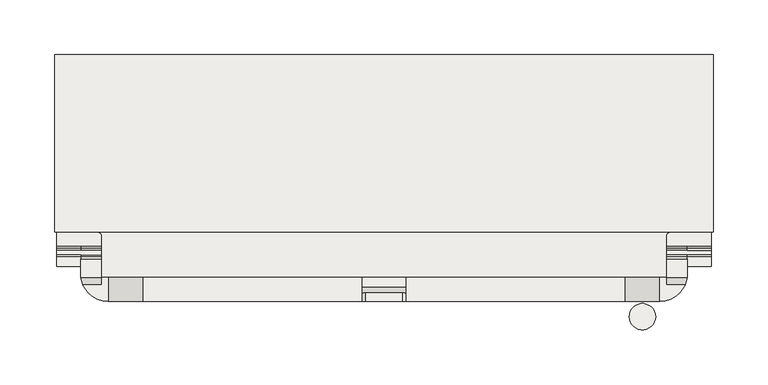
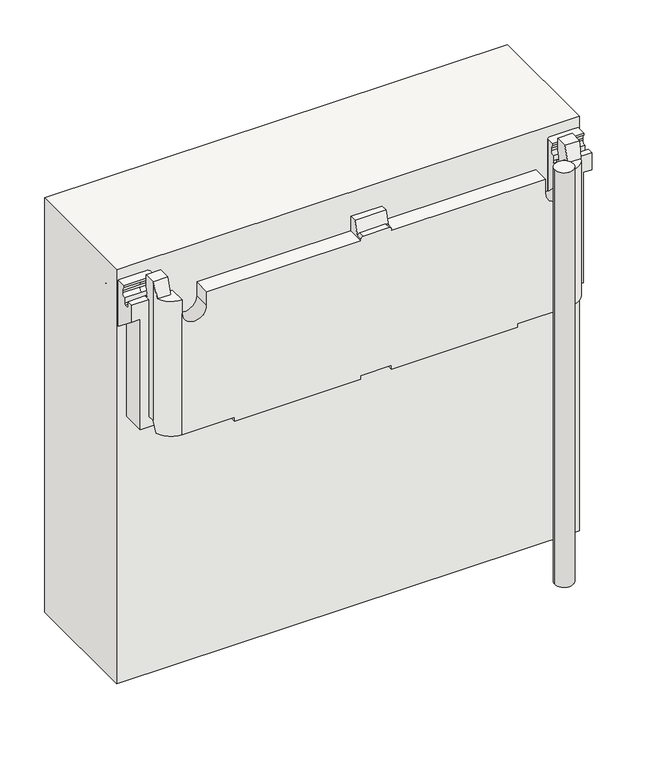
"""IFC4 building model written with IfcOpenShell, lengths in millimetres: covering geometry, panel VP Modulo prova ultima texture : panel VP Modulo prova ultima texture."""

from ifc_helpers import new_model, si_unit, point, frame, frame_2d, origin, origin_with_axes, place, context, project, spatial, polyline, circle_curve, ellipse_curve, trimmed, segment, composite_curve, outline, extrude, source, transform, mapped, element, save
from ifc_brep_helpers import plane_surface, cylinder_surface, revolved_surface, advanced_brep


def covering_409b982e(model_context):
    return source(origin(), model_context, "Body", "SolidModel", [
        advanced_brep(
        [(-20.0, 40.503817, 567.5220564), (-20.0, 49.5015434, 567.5220564), (-20.0, 49.5015434, 547.5249996), (-20.0, 27.5015432, 547.5249996), (-20.0, 27.5015432, 549.5249996), (-20.0, 34.5021229, 549.5249996), (20.0, 49.5015434, 567.5220564), (20.0, 40.503817, 567.5220564), (20.0, 34.5021229, 549.5249996), (20.0, 27.5015432, 549.5249996), (20.0, 27.5015432, 547.5249996), (20.0, 49.5015434, 547.5249996), (-17.0, 35.5025688, 552.5249996), (17.0, 35.5025688, 552.5249996), (17.0, 27.5015432, 552.5249996), (-17.0, 27.5015432, 552.5249996), (-276.2404059, 49.5015434, 567.5198754), (-276.2404059, 65.772467, 567.5198754), (-276.2404059, 65.772467, 549.5768312), (-276.2404059, 63.7739273, 544.6813202), (-276.2404059, 63.7739273, 541.6813202), (-276.2404059, 67.7745502, 536.9851203), (-276.2404059, 59.5, 536.9851203), (-276.2404059, 59.5, 377.5207128), (-276.2404059, 49.5015434, 377.5207128), (276.2404059, 67.7745502, 536.9851203), (276.2404059, 63.7739273, 541.6813202), (276.2404059, 63.7739273, 544.6813202), (276.2404059, 65.772467, 549.5768312), (276.2404059, 65.772467, 567.5198754), (276.2404059, 49.5015434, 567.5198754), (276.2404059, 49.5015434, 377.5207128), (276.2404059, 59.5, 377.5207128), (276.2404059, 59.5, 536.9851203), (219.5404059, 27.5015432, 547.5249996), (219.5404059, 49.5015434, 547.5249996), (257.5404059, 42.6167555, 547.5249996), (257.5404059, 49.5015434, 547.5249996), (251.5404059, 49.5015434, 547.5249996), (251.5404059, 27.5015432, 547.5249996), (274.4146377, 42.6167555, 547.5249996), (-251.5404059, 27.5015432, 547.5249996), (-251.5404059, 49.5015434, 547.5249996), (-257.5404059, 49.5015434, 547.5249996), (-257.5404059, 42.6167555, 547.5249996), (-274.4146377, 42.6167555, 547.5249996), (-219.5404059, 49.5015434, 547.5249996), (-219.5404059, 27.5015432, 547.5249996), (-276.2404059, 109.8415131, 384.5213892), (276.2404059, 109.8415131, 384.5213892), (276.2404059, 141.2113001, 412.1618818), (-276.2404059, 141.2113001, 412.1618818), (-276.2404059, 147.3447094, 418.6241094), (276.2404059, 147.3447094, 418.6241094), (276.2404059, 184.4941844, 465.5067645), (-276.2404059, 184.4941844, 465.5067645), (276.2404059, 184.4941844, 492.5056194), (-276.2404059, 184.4941844, 492.5056194), (298.2404059, 184.4914281, 492.5056194), (298.2404059, 202.488872, 492.5056194), (-298.2404059, 202.488872, 492.5056194), (-298.2404059, 184.4914281, 492.5056194), (-298.2404059, 202.488872, 452.7923442), (298.2404059, 202.488872, 452.7923442), (276.2404059, 193.4423608, 411.4138134), (-276.2404059, 193.4423608, 411.4138134), (-298.2404059, 193.4423608, 411.4138134), (298.2404059, 193.4423608, 411.4138134), (276.2404059, 190.281945, 410.2861233), (-276.2404059, 190.281945, 410.2861233), (298.2404059, 190.281945, 410.2861233), (298.2404059, 59.5, 513.9167777), (287.2404059, 59.5, 513.9167777), (287.2404059, 180.2456216, 418.2388324), (276.2404059, 180.2456216, 418.2388324), (-276.2404059, 180.2456216, 418.2388324), (-287.2404059, 180.2456216, 418.2388324), (-287.2404059, 59.5, 513.9167777), (-298.2404059, 59.5, 513.9167777), (-298.2404059, 190.281945, 410.2861233), (276.2404059, 174.5899002, 417.5837505), (-276.2404059, 174.5899002, 417.5837505), (287.2404059, 174.5899002, 417.5837505), (287.2404059, 160.5878776, 399.9132262), (-287.2404059, 160.5878776, 399.9132262), (-287.2404059, 174.5899002, 417.5837505), (-287.2404059, 118.1414154, 362.5128727), (287.2404059, 118.1414154, 362.5128727), (251.5404059, 118.1414154, 362.5128727), (211.5404059, 118.1414154, 362.5128727), (20.0, 118.1414154, 362.5128727), (-20.0, 118.1414154, 362.5128727), (-211.5404059, 118.1414154, 362.5128727), (-251.5404059, 118.1414154, 362.5128727), (-287.2404059, 59.5, 362.5250013), (-251.5404059, 78.1414154, 362.5250013), (-211.5404059, 78.1414154, 362.5250013), (-20.0, 78.1414154, 362.5250013), (20.0, 78.1414154, 362.5250013), (211.5404059, 78.1414154, 362.5250013), (251.5404059, 78.1414154, 362.5250013), (287.2404059, 59.5, 362.5250013), (266.2404059, 59.5, 362.5250013), (266.2404059, 44.6291413, 362.5250013), (275.1714066, 44.6291413, 362.5250013), (251.5404059, 27.5015432, 362.5250013), (183.2404059, 27.5015432, 362.5250013), (183.2404059, 67.5015432, 362.5250013), (20.0, 67.5015432, 362.5250013), (20.0, 27.5015432, 362.5250013), (-20.0, 27.5015432, 362.5250013), (-20.0, 67.5015432, 362.5250013), (-183.2404059, 67.5015432, 362.5250013), (-183.2404059, 27.5015432, 362.5250013), (-251.5404059, 27.5015432, 362.5250013), (-275.1714066, 44.6291413, 362.5250013), (-266.2404059, 44.6291413, 362.5250013), (-266.2404059, 59.5, 362.5250013), (-219.5404059, 27.5015432, 528.501469), (-251.5404059, 27.5015432, 528.501469), (-183.2404059, 27.5015432, 357.5154158), (-20.0, 27.5015432, 357.5154158), (20.0, 27.5015432, 357.5154158), (183.2404059, 27.5015432, 357.5154158), (251.5404059, 27.5015432, 528.501469), (219.5404059, 27.5015432, 528.501469), (-251.5404059, 49.5015434, 528.501469), (-219.5404059, 49.5015434, 528.501469), (219.5404059, 49.5015434, 528.501469), (251.5404059, 49.5015434, 528.501469), (257.5404059, 49.5015434, 384.5213892), (-257.5404059, 49.5015434, 384.5213892), (-276.2404059, 101.3665857, 384.5213892), (-265.6338042, 90.7599839, 384.5213892), (-261.9338042, 90.7599839, 384.5213892), (-257.5404059, 86.3665857, 384.5213892), (257.5404059, 86.3665857, 384.5213892), (261.9338042, 90.7599839, 384.5213892), (265.6338042, 90.7599839, 384.5213892), (276.2404059, 101.3665857, 384.5213892), (-298.2404059, 59.5, 536.9851203), (-298.2404059, 67.7745502, 536.9851203), (-298.2404059, 67.7745502, 529.9852856), (-298.2404059, 69.7745502, 527.9852856), (-298.2404059, 74.0001297, 527.9852856), (-298.2404059, 76.0001297, 529.9852856), (-298.2404059, 76.0001297, 536.9851203), (-298.2404059, 80.0007527, 541.6813202), (-298.2404059, 80.0007527, 544.6813202), (-298.2404059, 78.002213, 549.5768312), (-298.2404059, 78.002213, 552.5285461), (-298.2404059, 115.166168, 552.5285461), (-298.2404059, 118.166168, 549.5285461), (-298.2404059, 118.166168, 533.2479937), (-298.2404059, 119.6447617, 530.6623946), (-276.2404059, 119.6447617, 530.6623946), (-276.2404059, 118.166168, 533.2479937), (-276.2404059, 118.166168, 549.5285461), (-276.2404059, 115.166168, 552.5285461), (-276.2404059, 101.3665857, 552.5285461), (-266.2404059, 59.5, 377.5207128), (-257.5404059, 67.7745502, 536.9851203), (-257.5404059, 67.7745502, 529.9852856), (-276.2404059, 67.7745502, 529.9852856), (-276.2404059, 69.7745502, 527.9852856), (-257.5404059, 69.7745502, 527.9852856), (-257.5404059, 74.0001297, 527.9852856), (-276.2404059, 74.0001297, 527.9852856), (-276.2404059, 76.0001297, 529.9852856), (-257.5404059, 76.0001297, 529.9852856), (-257.5404059, 76.0001297, 536.9851203), (-276.2404059, 76.0001297, 536.9851203), (-276.2404059, 80.0007527, 541.6813202), (-257.5404059, 80.0007527, 541.6813202), (-257.5404059, 80.0007527, 544.6813202), (-276.2404059, 80.0007527, 544.6813202), (-276.2404059, 78.002213, 549.5768312), (-257.5404059, 78.002213, 549.5768312), (-257.5404059, 78.002213, 552.5285461), (-257.5404059, 86.3665857, 552.5285461), (-261.9338042, 90.7599839, 552.5285461), (-265.6338042, 90.7599839, 552.5285461), (-257.5404059, 63.7739273, 541.6813202), (-257.5404059, 63.7739273, 544.6813202), (-257.5404059, 65.772467, 549.5768312), (-257.5404059, 65.772467, 567.5198754), (-257.5404059, 49.5015434, 567.5198754), (298.2404059, 119.6447617, 530.6623946), (298.2404059, 118.166168, 533.2479937), (298.2404059, 118.166168, 549.5285461), (298.2404059, 115.166168, 552.5285461), (298.2404059, 78.002213, 552.5285461), (298.2404059, 78.002213, 549.5768312), (298.2404059, 80.0007527, 544.6813202), (298.2404059, 80.0007527, 541.6813202), (298.2404059, 76.0001297, 536.9851203), (298.2404059, 76.0001297, 529.9852856), (298.2404059, 74.0001297, 527.9852856), (298.2404059, 69.7745502, 527.9852856), (298.2404059, 67.7745502, 529.9852856), (298.2404059, 67.7745502, 536.9851203), (298.2404059, 59.5, 536.9851203), (276.2404059, 115.166168, 552.5285461), (276.2404059, 118.166168, 549.5285461), (276.2404059, 118.166168, 533.2479937), (276.2404059, 119.6447617, 530.6623946), (276.2404059, 101.3665857, 552.5285461), (266.2404059, 59.5, 377.5207128), (276.2404059, 69.7745502, 527.9852856), (276.2404059, 67.7745502, 529.9852856), (276.2404059, 76.0001297, 529.9852856), (276.2404059, 74.0001297, 527.9852856), (276.2404059, 80.0007527, 541.6813202), (276.2404059, 76.0001297, 536.9851203), (276.2404059, 78.002213, 549.5768312), (276.2404059, 80.0007527, 544.6813202), (257.5404059, 49.5015434, 567.5198754), (257.5404059, 65.772467, 567.5198754), (257.5404059, 65.772467, 549.5768312), (257.5404059, 63.7739273, 544.6813202), (257.5404059, 63.7739273, 541.6813202), (257.5404059, 67.7745502, 536.9851203), (257.5404059, 67.7745502, 529.9852856), (257.5404059, 69.7745502, 527.9852856), (257.5404059, 74.0001297, 527.9852856), (257.5404059, 76.0001297, 529.9852856), (257.5404059, 76.0001297, 536.9851203), (257.5404059, 80.0007527, 541.6813202), (257.5404059, 80.0007527, 544.6813202), (257.5404059, 78.002213, 549.5768312), (257.5404059, 78.002213, 552.5285461), (257.5404059, 86.3665857, 552.5285461), (265.6338042, 90.7599839, 552.5285461), (261.9338042, 90.7599839, 552.5285461), (251.5404059, 78.1414154, 357.5154158), (211.5404059, 78.1414154, 357.5154158), (211.5404059, 118.1414154, 357.5154158), (251.5404059, 118.1414154, 357.5154158), (-20.0, 78.1414154, 357.5154158), (-20.0, 118.1414154, 357.5154158), (20.0, 118.1414154, 357.5154158), (20.0, 78.1414154, 357.5154158), (-251.5404059, 78.1414154, 357.5154158), (-251.5404059, 118.1414154, 357.5154158), (-211.5404059, 118.1414154, 357.5154158), (-211.5404059, 78.1414154, 357.5154158), (20.0, 67.5015432, 357.5154158), (183.2404059, 67.5015432, 357.5154158), (-20.0, 67.5015432, 357.5154158), (-183.2404059, 67.5015432, 357.5154158), (-266.2404059, 49.5015434, 377.5207128), (266.2404059, 49.5015434, 377.5207128)],
        [
            (0, 1),
            (1, 2),
            (2, 3),
            (3, 4),
            (4, 5),
            (5, 0),
            (6, 7),
            (7, 8),
            (8, 9),
            (9, 10),
            (10, 11),
            (11, 6),
            (0, 7),
            (6, 1),
            (5, 12, ellipse_curve(frame((-17.0, 34.5021229, 549.5249996), z_axis=(0.0, 0.9486409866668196, -0.31635467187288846), x_axis=(0.0, 0.31635467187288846, 0.9486409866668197)), 3.1624187, 3.0)),
            (12, 13),
            (13, 8, ellipse_curve(frame((17.0, 34.5021229, 549.5249996), z_axis=(0.0, 0.9486409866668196, -0.31635467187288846), x_axis=(0.0, 0.31635467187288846, 0.9486409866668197)), 3.1624187, 3.0)),
            (14, 9, circle_curve(frame((17.0, 27.5015432, 549.5249996), z_axis=(0.0, 1.0, 0.0), x_axis=(-1.0, 0.0, 0.0)), 3.0)),
            (13, 14),
            (4, 15, circle_curve(frame((-17.0, 27.5015432, 549.5249996), z_axis=(0.0, 1.0, 0.0), x_axis=(-1.0, 0.0, 0.0)), 3.0)),
            (15, 12),
            (15, 14),
            (16, 17),
            (17, 18),
            (18, 19, circle_curve(frame((-276.2404059, 70.7690822, 544.6813202), z_axis=(1.0, 0.0, 0.0), x_axis=(0.0, -1.0, 0.0)), 6.9951549)),
            (19, 20),
            (20, 21, circle_curve(frame((-276.2404059, 68.5305961, 541.6813202), z_axis=(1.0, 0.0, 0.0), x_axis=(0.0, -1.0, 0.0)), 4.7566689)),
            (21, 22),
            (22, 23),
            (23, 24),
            (24, 16),
            (25, 26, circle_curve(frame((276.2404059, 68.5305961, 541.6813202), z_axis=(-1.0, 0.0, 0.0), x_axis=(0.0, -1.0, 0.0)), 4.7566689)),
            (26, 27),
            (27, 28, circle_curve(frame((276.2404059, 70.7690822, 544.6813202), z_axis=(-1.0, 0.0, 0.0), x_axis=(0.0, -1.0, 0.0)), 6.9951549)),
            (28, 29),
            (29, 30),
            (30, 31),
            (31, 32),
            (32, 33),
            (33, 25),
            (10, 34),
            (34, 35),
            (35, 11),
            (36, 37),
            (37, 38),
            (38, 39),
            (39, 40, circle_curve(frame((251.5404059, 52.367225, 547.5249996), z_axis=(0.0, 0.0, 1.0), x_axis=(1.0, 0.0, 0.0)), 24.8656818)),
            (40, 36),
            (41, 42),
            (42, 43),
            (43, 44),
            (44, 45),
            (45, 41, circle_curve(frame((-251.5404059, 52.367225, 547.5249996), z_axis=(0.0, 0.0, 1.0), x_axis=(-1.0, 0.0, 0.0)), 24.8656818)),
            (46, 47),
            (47, 3),
            (2, 46),
            (48, 49),
            (49, 50),
            (50, 51),
            (51, 48),
            (52, 53),
            (53, 54),
            (54, 55),
            (55, 52),
            (54, 56),
            (56, 57),
            (57, 55),
            (56, 58),
            (58, 59),
            (59, 60),
            (60, 61),
            (61, 57),
            (62, 60),
            (59, 63),
            (63, 62),
            (64, 65),
            (65, 66),
            (66, 62),
            (63, 67),
            (67, 64),
            (64, 68, circle_curve(frame((276.2404059, 191.5102381, 411.8362298), z_axis=(-1.0, 0.0, 0.0), x_axis=(0.0, -1.0, 0.0)), 1.9777598)),
            (68, 69),
            (69, 65, circle_curve(frame((-276.2404059, 191.5102381, 411.8362298), z_axis=(1.0, 0.0, 0.0), x_axis=(0.0, -1.0, 0.0)), 1.9777598)),
            (68, 70),
            (70, 71),
            (71, 72),
            (72, 73),
            (73, 74),
            (74, 75),
            (75, 76),
            (76, 77),
            (77, 78),
            (78, 79),
            (79, 69),
            (74, 80, circle_curve(frame((276.2404059, 177.7453022, 415.0834279), z_axis=(1.0, 0.0, 0.0), x_axis=(0.0, -1.0, 0.0)), 4.0259377)),
            (80, 81),
            (81, 75, circle_curve(frame((-276.2404059, 177.7453022, 415.0834279), z_axis=(-1.0, 0.0, 0.0), x_axis=(0.0, -1.0, 0.0)), 4.0259377)),
            (80, 82),
            (82, 83),
            (83, 84),
            (84, 85),
            (85, 81),
            (86, 84),
            (83, 87),
            (87, 88),
            (88, 89),
            (89, 90),
            (90, 91),
            (91, 92),
            (92, 93),
            (93, 86),
            (50, 53, circle_curve(frame((276.2404059, 108.1562691, 449.6767445), z_axis=(1.0, 0.0, 0.0), x_axis=(0.0, -1.0, 0.0)), 50.0)),
            (52, 51, circle_curve(frame((-276.2404059, 108.1562691, 449.6767445), z_axis=(-1.0, 0.0, 0.0), x_axis=(0.0, -1.0, 0.0)), 50.0)),
            (94, 86),
            (93, 95),
            (95, 96),
            (96, 92),
            (91, 97),
            (97, 98),
            (98, 90),
            (89, 99),
            (99, 100),
            (100, 88),
            (87, 101),
            (101, 102),
            (102, 103),
            (103, 104),
            (104, 105, circle_curve(frame((251.5404059, 52.367225, 362.5250013), z_axis=(0.0, 0.0, -1.0), x_axis=(1.0, 0.0, 0.0)), 24.8656818)),
            (105, 106),
            (106, 107),
            (107, 108),
            (108, 109),
            (109, 110),
            (110, 111),
            (111, 112),
            (112, 113),
            (113, 114),
            (114, 115, circle_curve(frame((-251.5404059, 52.367225, 362.5250013), z_axis=(0.0, 0.0, -1.0), x_axis=(-1.0, 0.0, 0.0)), 24.8656818)),
            (115, 116),
            (116, 117),
            (117, 94),
            (47, 118),
            (118, 119, circle_curve(frame((-235.5404059, 27.5015432, 528.501469), z_axis=(0.0, 1.0, 0.0), x_axis=(-1.0, 0.0, 0.0)), 16.0)),
            (119, 114),
            (113, 120),
            (120, 121),
            (121, 110),
            (109, 122),
            (122, 123),
            (123, 106),
            (105, 124),
            (124, 125, circle_curve(frame((235.5404059, 27.5015432, 528.501469), z_axis=(0.0, 1.0, 0.0), x_axis=(1.0, 0.0, 0.0)), 16.0)),
            (125, 34),
            (42, 126),
            (126, 127, circle_curve(frame((-235.5404059, 49.5015434, 528.501469), z_axis=(0.0, -1.0, 0.0), x_axis=(-1.0, 0.0, 0.0)), 16.0)),
            (127, 46),
            (35, 128),
            (128, 129, circle_curve(frame((235.5404059, 49.5015434, 528.501469), z_axis=(0.0, -1.0, 0.0), x_axis=(1.0, 0.0, 0.0)), 16.0)),
            (129, 38),
            (37, 130),
            (130, 131),
            (131, 43),
            (48, 132),
            (132, 133, circle_curve(frame((-265.6338042, 101.3665857, 384.5213892), z_axis=(0.0, 0.0, 1.0), x_axis=(-1.0, 0.0, 0.0)), 10.6066017)),
            (133, 134),
            (134, 135, circle_curve(frame((-261.9338042, 86.3665857, 384.5213892), z_axis=(0.0, 0.0, -1.0), x_axis=(-1.0, 0.0, 0.0)), 4.3933983)),
            (135, 131),
            (130, 136),
            (136, 137, circle_curve(frame((261.9338042, 86.3665857, 384.5213892), z_axis=(0.0, 0.0, -1.0), x_axis=(1.0, 0.0, 0.0)), 4.3933983)),
            (137, 138),
            (138, 139, circle_curve(frame((265.6338042, 101.3665857, 384.5213892), z_axis=(0.0, 0.0, 1.0), x_axis=(1.0, 0.0, 0.0)), 10.6066017)),
            (139, 49),
            (66, 79, circle_curve(frame((-298.2404059, 191.5102381, 411.8362298), z_axis=(-1.0, 0.0, 0.0), x_axis=(0.0, -1.0, 0.0)), 1.9777598)),
            (78, 140),
            (140, 141),
            (141, 142),
            (142, 143, circle_curve(frame((-298.2404059, 69.7745502, 529.9852856), z_axis=(1.0, 0.0, 0.0), x_axis=(0.0, -1.0, 0.0)), 2.0)),
            (143, 144),
            (144, 145, circle_curve(frame((-298.2404059, 74.0001297, 529.9852856), z_axis=(1.0, 0.0, 0.0), x_axis=(0.0, -1.0, 0.0)), 2.0)),
            (145, 146),
            (146, 147, circle_curve(frame((-298.2404059, 75.2440838, 541.6813202), z_axis=(1.0, 0.0, 0.0), x_axis=(0.0, -1.0, 0.0)), 4.7566689)),
            (147, 148),
            (148, 149, circle_curve(frame((-298.2404059, 73.0055977, 544.6813202), z_axis=(1.0, 0.0, 0.0), x_axis=(0.0, -1.0, 0.0)), 6.9951549)),
            (149, 150),
            (150, 151),
            (151, 152, circle_curve(frame((-298.2404059, 115.166168, 549.5285461), z_axis=(-1.0, 0.0, 0.0), x_axis=(0.0, -1.0, 0.0)), 3.0)),
            (152, 153),
            (153, 154, circle_curve(frame((-298.2404059, 121.166168, 533.2479937), z_axis=(1.0, 0.0, 0.0), x_axis=(0.0, -1.0, 0.0)), 3.0)),
            (154, 61),
            (57, 155),
            (155, 156, circle_curve(frame((-276.2404059, 121.166168, 533.2479937), z_axis=(-1.0, 0.0, 0.0), x_axis=(0.0, -1.0, 0.0)), 3.0)),
            (156, 157),
            (157, 158, circle_curve(frame((-276.2404059, 115.166168, 549.5285461), z_axis=(1.0, 0.0, 0.0), x_axis=(0.0, -1.0, 0.0)), 3.0)),
            (158, 159),
            (159, 132),
            (77, 94),
            (117, 160),
            (160, 23),
            (22, 140),
            (141, 21),
            (21, 161),
            (161, 162),
            (162, 163),
            (163, 142),
            (163, 164, circle_curve(frame((-276.2404059, 69.7745502, 529.9852856), z_axis=(1.0, 0.0, 0.0), x_axis=(0.0, -1.0, 0.0)), 2.0)),
            (164, 143),
            (164, 165),
            (165, 166),
            (166, 167),
            (167, 144),
            (167, 168, circle_curve(frame((-276.2404059, 74.0001297, 529.9852856), z_axis=(1.0, 0.0, 0.0), x_axis=(0.0, -1.0, 0.0)), 2.0)),
            (168, 145),
            (168, 169),
            (169, 170),
            (170, 171),
            (171, 146),
            (171, 172, circle_curve(frame((-276.2404059, 75.2440838, 541.6813202), z_axis=(1.0, 0.0, 0.0), x_axis=(0.0, -1.0, 0.0)), 4.7566689)),
            (172, 147),
            (172, 173),
            (173, 174),
            (174, 175),
            (175, 148),
            (175, 176, circle_curve(frame((-276.2404059, 73.0055977, 544.6813202), z_axis=(1.0, 0.0, 0.0), x_axis=(0.0, -1.0, 0.0)), 6.9951549)),
            (176, 149),
            (176, 177),
            (177, 178),
            (178, 150),
            (178, 179),
            (179, 180, circle_curve(frame((-261.9338042, 86.3665857, 552.5285461), z_axis=(0.0, 0.0, 1.0), x_axis=(-1.0, 0.0, 0.0)), 4.3933983)),
            (180, 181),
            (181, 159, circle_curve(frame((-265.6338042, 101.3665857, 552.5285461), z_axis=(0.0, 0.0, -1.0), x_axis=(-1.0, 0.0, 0.0)), 10.6066017)),
            (158, 151),
            (157, 152),
            (156, 153),
            (155, 154),
            (76, 85, circle_curve(frame((-287.2404059, 177.7453022, 415.0834279), z_axis=(1.0, 0.0, 0.0), x_axis=(0.0, -1.0, 0.0)), 4.0259377)),
            (45, 16, ellipse_curve(frame((-251.5404059, 52.367225, 575.842419), z_axis=(0.0, 0.9455185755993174, -0.32556815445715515), x_axis=(0.0, -0.3255681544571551, -0.9455185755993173)), 76.3762716, 24.8656818)),
            (24, 115, ellipse_curve(frame((-251.5404059, 52.367225, 386.3403739), z_axis=(0.0, -0.9510565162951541, 0.3090169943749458), x_axis=(0.0, -0.30901699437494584, -0.9510565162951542)), 80.4670366, 24.8656818)),
            (119, 41),
            (177, 174, circle_curve(frame((-257.5404059, 73.0055977, 544.6813202), z_axis=(-1.0, 0.0, 0.0), x_axis=(0.0, -1.0, 0.0)), 6.9951549)),
            (173, 170, circle_curve(frame((-257.5404059, 75.2440838, 541.6813202), z_axis=(-1.0, 0.0, 0.0), x_axis=(0.0, -1.0, 0.0)), 4.7566689)),
            (169, 166, circle_curve(frame((-257.5404059, 74.0001297, 529.9852856), z_axis=(-1.0, 0.0, 0.0), x_axis=(0.0, -1.0, 0.0)), 2.0)),
            (165, 162, circle_curve(frame((-257.5404059, 69.7745502, 529.9852856), z_axis=(-1.0, 0.0, 0.0), x_axis=(0.0, -1.0, 0.0)), 2.0)),
            (161, 182, circle_curve(frame((-257.5404059, 68.5305961, 541.6813202), z_axis=(-1.0, 0.0, 0.0), x_axis=(0.0, -1.0, 0.0)), 4.7566689)),
            (182, 183),
            (183, 184, circle_curve(frame((-257.5404059, 70.7690822, 544.6813202), z_axis=(-1.0, 0.0, 0.0), x_axis=(0.0, -1.0, 0.0)), 6.9951549)),
            (184, 185),
            (185, 186),
            (186, 44),
            (135, 179),
            (16, 186),
            (185, 17),
            (184, 18),
            (183, 19),
            (182, 20),
            (134, 180),
            (133, 181),
            (39, 124),
            (104, 31, ellipse_curve(frame((251.5404059, 52.367225, 386.3403739), z_axis=(0.0, -0.9510565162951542, 0.3090169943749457), x_axis=(0.0, -0.3090169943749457, -0.9510565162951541)), 80.4670366, 24.8656818)),
            (30, 40, ellipse_curve(frame((251.5404059, 52.367225, 575.842419), z_axis=(0.0, 0.9455185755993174, -0.3255681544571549), x_axis=(0.0, -0.3255681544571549, -0.9455185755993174)), 76.3762716, 24.8656818)),
            (58, 187),
            (187, 188, circle_curve(frame((298.2404059, 121.166168, 533.2479937), z_axis=(-1.0, 0.0, 0.0), x_axis=(0.0, -1.0, 0.0)), 3.0)),
            (188, 189),
            (189, 190, circle_curve(frame((298.2404059, 115.166168, 549.5285461), z_axis=(1.0, 0.0, 0.0), x_axis=(0.0, -1.0, 0.0)), 3.0)),
            (190, 191),
            (191, 192),
            (192, 193, circle_curve(frame((298.2404059, 73.0055977, 544.6813202), z_axis=(-1.0, 0.0, 0.0), x_axis=(0.0, -1.0, 0.0)), 6.9951549)),
            (193, 194),
            (194, 195, circle_curve(frame((298.2404059, 75.2440838, 541.6813202), z_axis=(-1.0, 0.0, 0.0), x_axis=(0.0, -1.0, 0.0)), 4.7566689)),
            (195, 196),
            (196, 197, circle_curve(frame((298.2404059, 74.0001297, 529.9852856), z_axis=(-1.0, 0.0, 0.0), x_axis=(0.0, -1.0, 0.0)), 2.0)),
            (197, 198),
            (198, 199, circle_curve(frame((298.2404059, 69.7745502, 529.9852856), z_axis=(-1.0, 0.0, 0.0), x_axis=(0.0, -1.0, 0.0)), 2.0)),
            (199, 200),
            (200, 201),
            (201, 71),
            (70, 67, circle_curve(frame((298.2404059, 191.5102381, 411.8362298), z_axis=(1.0, 0.0, 0.0), x_axis=(0.0, -1.0, 0.0)), 1.9777598)),
            (202, 203, circle_curve(frame((276.2404059, 115.166168, 549.5285461), z_axis=(-1.0, 0.0, 0.0), x_axis=(0.0, -1.0, 0.0)), 3.0)),
            (203, 204),
            (204, 205, circle_curve(frame((276.2404059, 121.166168, 533.2479937), z_axis=(1.0, 0.0, 0.0), x_axis=(0.0, -1.0, 0.0)), 3.0)),
            (205, 56),
            (139, 206),
            (206, 202),
            (201, 33),
            (32, 207),
            (207, 102),
            (101, 72),
            (198, 208),
            (208, 209, circle_curve(frame((276.2404059, 69.7745502, 529.9852856), z_axis=(-1.0, 0.0, 0.0), x_axis=(0.0, -1.0, 0.0)), 2.0)),
            (209, 199),
            (196, 210),
            (210, 211, circle_curve(frame((276.2404059, 74.0001297, 529.9852856), z_axis=(-1.0, 0.0, 0.0), x_axis=(0.0, -1.0, 0.0)), 2.0)),
            (211, 197),
            (194, 212),
            (212, 213, circle_curve(frame((276.2404059, 75.2440838, 541.6813202), z_axis=(-1.0, 0.0, 0.0), x_axis=(0.0, -1.0, 0.0)), 4.7566689)),
            (213, 195),
            (192, 214),
            (214, 215, circle_curve(frame((276.2404059, 73.0055977, 544.6813202), z_axis=(-1.0, 0.0, 0.0), x_axis=(0.0, -1.0, 0.0)), 6.9951549)),
            (215, 193),
            (189, 203),
            (202, 190),
            (188, 204),
            (187, 205),
            (200, 25),
            (36, 216),
            (216, 217),
            (217, 218),
            (218, 219, circle_curve(frame((257.5404059, 70.7690822, 544.6813202), z_axis=(1.0, 0.0, 0.0), x_axis=(0.0, -1.0, 0.0)), 6.9951549)),
            (219, 220),
            (220, 221, circle_curve(frame((257.5404059, 68.5305961, 541.6813202), z_axis=(1.0, 0.0, 0.0), x_axis=(0.0, -1.0, 0.0)), 4.7566689)),
            (221, 222),
            (222, 223, circle_curve(frame((257.5404059, 69.7745502, 529.9852856), z_axis=(1.0, 0.0, 0.0), x_axis=(0.0, -1.0, 0.0)), 2.0)),
            (223, 224),
            (224, 225, circle_curve(frame((257.5404059, 74.0001297, 529.9852856), z_axis=(1.0, 0.0, 0.0), x_axis=(0.0, -1.0, 0.0)), 2.0)),
            (225, 226),
            (226, 227, circle_curve(frame((257.5404059, 75.2440838, 541.6813202), z_axis=(1.0, 0.0, 0.0), x_axis=(0.0, -1.0, 0.0)), 4.7566689)),
            (227, 228),
            (228, 229, circle_curve(frame((257.5404059, 73.0055977, 544.6813202), z_axis=(1.0, 0.0, 0.0), x_axis=(0.0, -1.0, 0.0)), 6.9951549)),
            (229, 230),
            (230, 231),
            (231, 136),
            (221, 25),
            (209, 222),
            (208, 223),
            (29, 217),
            (216, 30),
            (28, 218),
            (27, 219),
            (26, 220),
            (211, 224),
            (210, 225),
            (213, 226),
            (212, 227),
            (215, 228),
            (214, 229),
            (191, 230),
            (206, 232, circle_curve(frame((265.6338042, 101.3665857, 552.5285461), z_axis=(0.0, 0.0, -1.0), x_axis=(1.0, 0.0, 0.0)), 10.6066017)),
            (232, 233),
            (233, 231, circle_curve(frame((261.9338042, 86.3665857, 552.5285461), z_axis=(0.0, 0.0, 1.0), x_axis=(1.0, 0.0, 0.0)), 4.3933983)),
            (233, 137),
            (232, 138),
            (119, 126),
            (127, 118),
            (129, 124),
            (125, 128),
            (82, 73, circle_curve(frame((287.2404059, 177.7453022, 415.0834279), z_axis=(-1.0, 0.0, 0.0), x_axis=(0.0, -1.0, 0.0)), 4.0259377)),
            (234, 235),
            (235, 236),
            (236, 237),
            (237, 234),
            (234, 100),
            (99, 235),
            (89, 236),
            (88, 237),
            (238, 239),
            (239, 240),
            (240, 241),
            (241, 238),
            (241, 98),
            (97, 238),
            (240, 90),
            (239, 91),
            (242, 243),
            (243, 244),
            (244, 245),
            (245, 242),
            (245, 96),
            (95, 242),
            (244, 92),
            (243, 93),
            (246, 247),
            (247, 123),
            (122, 246),
            (248, 121),
            (120, 249),
            (249, 248),
            (108, 246),
            (247, 107),
            (249, 112),
            (111, 248),
            (250, 160),
            (116, 250),
            (250, 24),
            (251, 103),
            (207, 251),
            (31, 251),
        ],
        [
            plane_surface(frame((-20.0, 49.5042184, 567.5220564), z_axis=(-1.0, 0.0, 0.0), x_axis=(0.0, 1.0, 0.0))),
            plane_surface(frame((20.0, 49.5042184, 567.5220564), z_axis=(1.0, 0.0, 0.0), x_axis=(0.0, -1.0, 0.0))),
            plane_surface(frame((-20.0, 40.503817, 567.5220564), z_axis=(0.0, 0.0, 1.0), x_axis=(1.0, 0.0, 0.0))),
            plane_surface(frame((-20.0, 33.835159, 547.5249996), z_axis=(0.0, -0.9486409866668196, 0.31635467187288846), x_axis=(1.0, 0.0, 0.0))),
            cylinder_surface(frame((17.0, 27.5015432, 549.5249996), z_axis=(0.0, 1.0, 0.0), x_axis=(-1.0, 0.0, 0.0)), 3.0),
            cylinder_surface(frame((-17.0, 27.5015432, 549.5249996), z_axis=(0.0, 1.0, 0.0), x_axis=(-1.0, 0.0, 0.0)), 3.0),
            plane_surface(frame((-17.0, 49.501543, 552.5249996), z_axis=(0.0, 0.0, 1.0), x_axis=(0.0, -1.0, 0.0))),
            plane_surface(frame((-276.2404059, 118.1414154, 362.5128727), z_axis=(-1.0, 0.0, 0.0), x_axis=(0.0, -0.7502972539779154, -0.6611006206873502))),
            plane_surface(frame((276.2404059, 118.1414154, 362.5128727), z_axis=(1.0, 0.0, 0.0), x_axis=(0.0, 0.7502972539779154, 0.6611006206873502))),
            plane_surface(frame((-276.2404059, 27.5015432, 547.5249996), z_axis=(0.0, 0.0, 1.0), x_axis=(1.0, 0.0, 0.0))),
            plane_surface(frame((-276.2404059, 109.8415131, 384.5213892), z_axis=(0.0, -0.6611006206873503, 0.7502972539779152), x_axis=(1.0, 0.0, 0.0))),
            plane_surface(frame((-276.2404059, 147.3447094, 418.6241094), z_axis=(0.0, -0.7837688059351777, 0.6210527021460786), x_axis=(1.0, 0.0, 0.0))),
            plane_surface(frame((-276.2404059, 184.4941844, 465.5067645), z_axis=(0.0, -1.0, 0.0), x_axis=(1.0, 0.0, 0.0))),
            plane_surface(frame((-276.2404059, 184.4941844, 492.5056194), z_axis=(0.0, 0.0, 1.0), x_axis=(1.0, 0.0, 0.0))),
            plane_surface(frame((-276.2404059, 202.488872, 492.5056194), z_axis=(0.0, 1.0, 0.0), x_axis=(1.0, 0.0, 0.0))),
            plane_surface(frame((-276.2404059, 202.488872, 452.7923442), z_axis=(0.0, 0.9769248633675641, -0.21358326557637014), x_axis=(1.0, 0.0, 0.0))),
            cylinder_surface(frame((276.2404059, 191.5102381, 411.8362298), z_axis=(-1.0, 0.0, 0.0), x_axis=(0.0, -1.0, 0.0)), 1.9777598),
            plane_surface(frame((-276.2404059, 190.281945, 410.2861233), z_axis=(0.0, -0.6210526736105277, -0.7837688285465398), x_axis=(1.0, 0.0, 0.0))),
            revolved_surface(polyline([(276.2404059, 173.71936449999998, 415.0834279), (-276.2404059, 173.71936449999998, 415.0834279)]), (276.2404059, 177.7453022, 415.0834279), (1.0, 0.0, 0.0)),
            plane_surface(frame((-276.2404059, 174.5899002, 417.5837505), z_axis=(0.0, 0.7837682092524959, -0.6210534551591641), x_axis=(1.0, 0.0, 0.0))),
            plane_surface(frame((-276.2404059, 160.5878776, 399.9132262), z_axis=(0.0, 0.6611006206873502, -0.7502972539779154), x_axis=(1.0, 0.0, 0.0))),
            revolved_surface(polyline([(276.2404059, 58.1562691, 449.6767445), (-276.2404059, 58.1562691, 449.6767445)]), (276.2404059, 108.1562691, 449.6767445), (1.0, 0.0, 0.0)),
            plane_surface(frame((-276.2404059, 118.1551803, 362.5250013), z_axis=(0.0, 0.0, -1.0), x_axis=(1.0, 0.0, 0.0))),
            plane_surface(frame((-276.2404059, 27.5015432, 362.5250013), z_axis=(0.0, -1.0, 0.0), x_axis=(1.0, 0.0, 0.0))),
            plane_surface(frame((-276.2404059, 49.5015434, 547.5249996), z_axis=(0.0, 1.0, 0.0), x_axis=(1.0, 0.0, 0.0))),
            plane_surface(frame((-276.2404059, 49.5015434, 384.5213892), z_axis=(0.0, 0.0, 1.0), x_axis=(1.0, 0.0, 0.0))),
            plane_surface(frame((-298.2404059, 202.488872, 452.7923442), z_axis=(-1.0000000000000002, 0.0, 0.0), x_axis=(0.0, -0.21358326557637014, -0.9769248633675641))),
            plane_surface(frame((-276.2404059, 202.488872, 452.7923442), z_axis=(1.0000000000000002, 0.0, 0.0), x_axis=(0.0, 0.21358326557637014, 0.9769248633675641))),
            cylinder_surface(frame((-276.2404059, 191.5102381, 411.8362298), z_axis=(-1.0, 0.0, 0.0), x_axis=(0.0, -1.0, 0.0)), 1.9777598),
            plane_surface(frame((-298.2404059, 59.5, 513.9167777), z_axis=(0.0, -1.0, 0.0), x_axis=(1.0, 0.0, 0.0))),
            plane_surface(frame((-298.2404059, 67.7745502, 536.9851203), z_axis=(0.0, 1.0, 0.0), x_axis=(1.0, 0.0, 0.0))),
            revolved_surface(polyline([(-276.2404059, 67.7745502, 529.9852856), (-298.2404059, 67.7745502, 529.9852856)]), (-276.2404059, 69.7745502, 529.9852856), (1.0, 0.0, 0.0)),
            plane_surface(frame((-298.2404059, 69.7745502, 527.9852856), z_axis=(0.0, 0.0, 1.0), x_axis=(1.0, 0.0, 0.0))),
            revolved_surface(polyline([(-276.2404059, 72.0001297, 529.9852856), (-298.2404059, 72.0001297, 529.9852856)]), (-276.2404059, 74.0001297, 529.9852856), (1.0, 0.0, 0.0)),
            plane_surface(frame((-298.2404059, 76.0001297, 529.9852856), z_axis=(0.0, -1.0, 0.0), x_axis=(1.0, 0.0, 0.0))),
            revolved_surface(polyline([(-276.2404059, 70.4874149, 541.6813202), (-298.2404059, 70.4874149, 541.6813202)]), (-276.2404059, 75.2440838, 541.6813202), (1.0, 0.0, 0.0)),
            plane_surface(frame((-298.2404059, 80.0007527, 541.6813202), z_axis=(0.0, -1.0, 0.0), x_axis=(1.0, 0.0, 0.0))),
            revolved_surface(polyline([(-276.2404059, 66.01044279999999, 544.6813202), (-298.2404059, 66.01044279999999, 544.6813202)]), (-276.2404059, 73.0055977, 544.6813202), (1.0, 0.0, 0.0)),
            plane_surface(frame((-298.2404059, 78.002213, 549.5768312), z_axis=(0.0, -1.0, 0.0), x_axis=(1.0, 0.0, 0.0))),
            plane_surface(frame((-298.2404059, 78.002213, 552.5285461), z_axis=(0.0, 0.0, 1.0), x_axis=(1.0, 0.0, 0.0))),
            cylinder_surface(frame((-276.2404059, 115.166168, 549.5285461), z_axis=(-1.0, 0.0, 0.0), x_axis=(0.0, -1.0, 0.0)), 3.0),
            plane_surface(frame((-298.2404059, 118.166168, 549.5285461), z_axis=(0.0, 1.0, 0.0), x_axis=(1.0, 0.0, 0.0))),
            revolved_surface(polyline([(-276.2404059, 118.166168, 533.2479937), (-298.2404059, 118.166168, 533.2479937)]), (-276.2404059, 121.166168, 533.2479937), (1.0, 0.0, 0.0)),
            plane_surface(frame((-298.2404059, 119.6447617, 530.6623946), z_axis=(0.0, 0.5071354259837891, 0.8618663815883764), x_axis=(1.0, 0.0, 0.0))),
            plane_surface(frame((-298.2404059, 59.5, 536.9851203), z_axis=(0.0, 0.0, 1.0), x_axis=(1.0, 0.0, 0.0))),
            plane_surface(frame((-287.2404059, 174.5899002, 417.5837505), z_axis=(-1.0, 0.0, 0.0), x_axis=(0.0, -0.6210534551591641, -0.7837682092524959))),
            revolved_surface(polyline([(-276.2404059, 173.71936449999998, 415.0834279), (-287.2404059, 173.71936449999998, 415.0834279)]), (-276.2404059, 177.7453022, 415.0834279), (1.0, 0.0, 0.0)),
            cylinder_surface(frame((-251.5404059, 52.367225, 357.5154158), z_axis=(0.0, 0.0, -1.0), x_axis=(-1.0, 0.0, 0.0)), 24.8656818),
            plane_surface(frame((-257.5404059, 33.2976457, 547.5249996), z_axis=(1.0, 0.0, 0.0), x_axis=(0.0, 1.0, 0.0))),
            revolved_surface(polyline([(-257.5404059, 67.7745502, 529.9852856), (-276.2404059, 67.7745502, 529.9852856)]), (-257.5404059, 69.7745502, 529.9852856), (1.0, 0.0, 0.0)),
            plane_surface(frame((-276.2404059, 49.5015434, 567.5198754), z_axis=(0.0, 0.0, 1.0), x_axis=(1.0, 0.0, 0.0))),
            plane_surface(frame((-276.2404059, 65.772467, 567.5198754), z_axis=(0.0, 1.0, 0.0), x_axis=(1.0, 0.0, 0.0))),
            revolved_surface(polyline([(-257.5404059, 63.7739273, 544.6813202), (-276.2404059, 63.7739273, 544.6813202)]), (-257.5404059, 70.7690822, 544.6813202), (1.0, 0.0, 0.0)),
            plane_surface(frame((-276.2404059, 63.7739273, 544.6813202), z_axis=(0.0, 1.0, 0.0), x_axis=(1.0, 0.0, 0.0))),
            revolved_surface(polyline([(-257.5404059, 63.773927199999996, 541.6813202), (-276.2404059, 63.773927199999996, 541.6813202)]), (-257.5404059, 68.5305961, 541.6813202), (1.0, 0.0, 0.0)),
            revolved_surface(polyline([(-257.5404059, 72.0001297, 529.9852856), (-276.2404059, 72.0001297, 529.9852856)]), (-257.5404059, 74.0001297, 529.9852856), (1.0, 0.0, 0.0)),
            revolved_surface(polyline([(-257.5404059, 70.4874149, 541.6813202), (-276.2404059, 70.4874149, 541.6813202)]), (-257.5404059, 75.2440838, 541.6813202), (1.0, 0.0, 0.0)),
            revolved_surface(polyline([(-257.5404059, 66.01044279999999, 544.6813202), (-276.2404059, 66.01044279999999, 544.6813202)]), (-257.5404059, 73.0055977, 544.6813202), (1.0, 0.0, 0.0)),
            plane_surface(frame((-276.2404059, 42.6167555, 547.5249996), z_axis=(0.0, -0.9455185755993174, 0.32556815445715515), x_axis=(1.0, 0.0, 0.0))),
            cylinder_surface(frame((-261.9338042, 86.3665857, 384.5213892), z_axis=(0.0, 0.0, 1.0), x_axis=(-1.0, 0.0, 0.0)), 4.3933983),
            plane_surface(frame((-261.9338042, 90.7599839, 552.5285461), z_axis=(0.0, 1.0, 0.0), x_axis=(0.0, 0.0, -1.0))),
            revolved_surface(polyline([(-276.2404059, 101.3665857, 384.5213892), (-276.2404059, 101.3665857, 552.5285461)]), (-265.6338042, 101.3665857, 384.5213892), (0.0, 0.0, -1.0)),
            cylinder_surface(frame((251.5404059, 52.367225, 357.5154158), z_axis=(0.0, 0.0, -1.0), x_axis=(1.0, 0.0, 0.0)), 24.8656818),
            plane_surface(frame((298.2404059, 202.488872, 492.5056194), z_axis=(1.0, 0.0, 0.0), x_axis=(0.0, 0.0, 1.0))),
            plane_surface(frame((276.2404059, 202.488872, 492.5056194), z_axis=(-1.0, 0.0, 0.0), x_axis=(0.0, 0.0, -1.0))),
            cylinder_surface(frame((276.2404059, 191.5102381, 411.8362298), z_axis=(1.0, 0.0, 0.0), x_axis=(0.0, -1.0, 0.0)), 1.9777598),
            plane_surface(frame((298.2404059, 59.5, 536.9851203), z_axis=(0.0, -1.0, 0.0), x_axis=(-1.0, 0.0, 0.0))),
            revolved_surface(polyline([(276.2404059, 67.7745502, 529.9852856), (298.2404059, 67.7745502, 529.9852856)]), (276.2404059, 69.7745502, 529.9852856), (-1.0, 0.0, 0.0)),
            revolved_surface(polyline([(276.2404059, 72.0001297, 529.9852856), (298.2404059, 72.0001297, 529.9852856)]), (276.2404059, 74.0001297, 529.9852856), (-1.0, 0.0, 0.0)),
            revolved_surface(polyline([(276.2404059, 70.4874149, 541.6813202), (298.2404059, 70.4874149, 541.6813202)]), (276.2404059, 75.2440838, 541.6813202), (-1.0, 0.0, 0.0)),
            revolved_surface(polyline([(276.2404059, 66.01044279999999, 544.6813202), (298.2404059, 66.01044279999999, 544.6813202)]), (276.2404059, 73.0055977, 544.6813202), (-1.0, 0.0, 0.0)),
            cylinder_surface(frame((276.2404059, 115.166168, 549.5285461), z_axis=(1.0, 0.0, 0.0), x_axis=(0.0, -1.0, 0.0)), 3.0),
            plane_surface(frame((298.2404059, 118.166168, 533.2479937), z_axis=(0.0, 1.0, 0.0), x_axis=(-1.0, 0.0, 0.0))),
            revolved_surface(polyline([(276.2404059, 118.166168, 533.2479937), (298.2404059, 118.166168, 533.2479937)]), (276.2404059, 121.166168, 533.2479937), (-1.0, 0.0, 0.0)),
            plane_surface(frame((298.2404059, 184.4914281, 492.5056194), z_axis=(0.0, 0.5071354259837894, 0.8618663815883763), x_axis=(-1.0, 0.0, 0.0))),
            plane_surface(frame((298.2404059, 67.7745502, 536.9851203), z_axis=(0.0, 0.0, 1.0), x_axis=(-1.0, 0.0, 0.0))),
            plane_surface(frame((257.5404059, 49.5015434, 242.1821377), z_axis=(-1.0, 0.0, 0.0), x_axis=(0.0, 0.0, 1.0))),
            plane_surface(frame((276.2404059, 67.7745502, 529.9852856), z_axis=(0.0, 1.0, 0.0), x_axis=(-1.0, 0.0, 0.0))),
            revolved_surface(polyline([(257.5404059, 67.7745502, 529.9852856), (276.2404059, 67.7745502, 529.9852856)]), (257.5404059, 69.7745502, 529.9852856), (-1.0, 0.0, 0.0)),
            plane_surface(frame((276.2404059, 65.772467, 567.5198754), z_axis=(0.0, 0.0, 1.0), x_axis=(-1.0, 0.0, 0.0))),
            plane_surface(frame((276.2404059, 65.772467, 549.5768312), z_axis=(0.0, 1.0, 0.0), x_axis=(-1.0, 0.0, 0.0))),
            revolved_surface(polyline([(257.5404059, 63.7739273, 544.6813202), (276.2404059, 63.7739273, 544.6813202)]), (257.5404059, 70.7690822, 544.6813202), (-1.0, 0.0, 0.0)),
            plane_surface(frame((276.2404059, 63.7739273, 541.6813202), z_axis=(0.0, 1.0, 0.0), x_axis=(-1.0, 0.0, 0.0))),
            revolved_surface(polyline([(257.5404059, 63.773927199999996, 541.6813202), (276.2404059, 63.773927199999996, 541.6813202)]), (257.5404059, 68.5305961, 541.6813202), (-1.0, 0.0, 0.0)),
            plane_surface(frame((276.2404059, 74.0001297, 527.9852856), z_axis=(0.0, 0.0, 1.0), x_axis=(-1.0, 0.0, 0.0))),
            revolved_surface(polyline([(257.5404059, 72.0001297, 529.9852856), (276.2404059, 72.0001297, 529.9852856)]), (257.5404059, 74.0001297, 529.9852856), (-1.0, 0.0, 0.0)),
            plane_surface(frame((276.2404059, 76.0001297, 536.9851203), z_axis=(0.0, -1.0, 0.0), x_axis=(-1.0, 0.0, 0.0))),
            revolved_surface(polyline([(257.5404059, 70.4874149, 541.6813202), (276.2404059, 70.4874149, 541.6813202)]), (257.5404059, 75.2440838, 541.6813202), (-1.0, 0.0, 0.0)),
            plane_surface(frame((276.2404059, 80.0007527, 544.6813202), z_axis=(0.0, -1.0, 0.0), x_axis=(-1.0, 0.0, 0.0))),
            revolved_surface(polyline([(257.5404059, 66.01044279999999, 544.6813202), (276.2404059, 66.01044279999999, 544.6813202)]), (257.5404059, 73.0055977, 544.6813202), (-1.0, 0.0, 0.0)),
            plane_surface(frame((276.2404059, 78.002213, 552.5285461), z_axis=(0.0, -1.0, 0.0), x_axis=(-1.0, 0.0, 0.0))),
            plane_surface(frame((276.2404059, 86.3665857, 552.5285461), z_axis=(0.0, 0.0, 1.0), x_axis=(-1.0, 0.0, 0.0))),
            plane_surface(frame((276.2404059, 49.5015434, 567.5198754), z_axis=(0.0, -0.9455185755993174, 0.3255681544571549), x_axis=(-1.0, 0.0, 0.0))),
            cylinder_surface(frame((261.9338042, 86.3665857, 384.5213892), z_axis=(0.0, 0.0, 1.0), x_axis=(1.0, 0.0, 0.0)), 4.3933983),
            plane_surface(frame((265.6338042, 90.7599839, 552.5285461), z_axis=(0.0, 1.0, 0.0), x_axis=(0.0, 0.0, -1.0))),
            revolved_surface(polyline([(276.2404059, 101.3665857, 384.5213892), (276.2404059, 101.3665857, 552.5285461)]), (265.6338042, 101.3665857, 384.5213892), (0.0, 0.0, -1.0)),
            plane_surface(frame((-251.5404059, 76.0001297, 528.501469), z_axis=(1.0, 0.0, 0.0), x_axis=(0.0, -1.0, 0.0))),
            plane_surface(frame((-219.5404059, 76.0001297, 559.431679), z_axis=(-1.0, 0.0, 0.0), x_axis=(0.0, -1.0, 0.0))),
            revolved_surface(polyline([(-251.5404059, 49.5015434, 528.501469), (-251.5404059, 27.5015432, 528.501469)]), (-235.5404059, -1.8695967, 528.501469), (0.0, 1.0, 0.0)),
            plane_surface(frame((251.5404059, 76.0001297, 559.431679), z_axis=(-1.0, 0.0, 0.0), x_axis=(0.0, -1.0, 0.0))),
            plane_surface(frame((219.5404059, 76.0001297, 528.501469), z_axis=(1.0, 0.0, 0.0), x_axis=(0.0, -1.0, 0.0))),
            revolved_surface(polyline([(251.5404059, 49.5015434, 528.501469), (251.5404059, 27.5015432, 528.501469)]), (235.5404059, -1.8695967, 528.501469), (0.0, 1.0, 0.0)),
            plane_surface(frame((287.2404059, 173.7193644, 415.0834279), z_axis=(1.0, 0.0, 0.0), x_axis=(0.0, 0.0, 1.0))),
            revolved_surface(polyline([(276.2404059, 173.71936449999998, 415.0834279), (287.2404059, 173.71936449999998, 415.0834279)]), (276.2404059, 177.7453022, 415.0834279), (-1.0, 0.0, 0.0)),
            plane_surface(frame((251.5404059, 78.1414154, 357.5154158), z_axis=(0.0, 0.0, -1.0), x_axis=(0.0, -1.0, 0.0))),
            plane_surface(frame((211.5404059, 78.1414154, 362.5069222), z_axis=(0.0, -1.0, 0.0), x_axis=(0.0, 0.0, -1.0))),
            plane_surface(frame((211.5404059, 118.1414154, 362.5069222), z_axis=(-1.0, 0.0, 0.0), x_axis=(0.0, 0.0, -1.0))),
            plane_surface(frame((251.5404059, 118.1414154, 362.5069222), z_axis=(0.0, 1.0, 0.0), x_axis=(0.0, 0.0, -1.0))),
            plane_surface(frame((251.5404059, 78.1414154, 362.5069222), z_axis=(1.0, 0.0, 0.0), x_axis=(0.0, 0.0, -1.0))),
            plane_surface(frame((20.0, 78.1414154, 357.5154158), z_axis=(0.0, 0.0, -1.0), x_axis=(-1.0, 0.0, 0.0))),
            plane_surface(frame((-20.0, 78.1414154, 362.5069222), z_axis=(0.0, -1.0, 0.0), x_axis=(0.0, 0.0, -1.0))),
            plane_surface(frame((20.0, 78.1414154, 362.5069222), z_axis=(1.0, 0.0, 0.0), x_axis=(0.0, 0.0, -1.0))),
            plane_surface(frame((20.0, 118.1414154, 362.5069222), z_axis=(0.0, 1.0, 0.0), x_axis=(0.0, 0.0, -1.0))),
            plane_surface(frame((-20.0, 118.1414154, 362.5069222), z_axis=(-1.0, 0.0, 0.0), x_axis=(0.0, 0.0, -1.0))),
            plane_surface(frame((-211.5404059, 78.1414154, 357.5154158), z_axis=(0.0, 0.0, -1.0), x_axis=(-1.0, 0.0, 0.0))),
            plane_surface(frame((-251.5404059, 78.1414154, 362.5069222), z_axis=(0.0, -1.0, 0.0), x_axis=(0.0, 0.0, -1.0))),
            plane_surface(frame((-211.5404059, 78.1414154, 362.5069222), z_axis=(1.0, 0.0, 0.0), x_axis=(0.0, 0.0, -1.0))),
            plane_surface(frame((-211.5404059, 118.1414154, 362.5069222), z_axis=(0.0, 1.0, 0.0), x_axis=(0.0, 0.0, -1.0))),
            plane_surface(frame((-251.5404059, 118.1414154, 362.5069222), z_axis=(-1.0, 0.0, 0.0), x_axis=(0.0, 0.0, -1.0))),
            plane_surface(frame((20.0, 27.5015432, 357.5154158), z_axis=(0.0, 0.0, -1.0), x_axis=(0.0, 1.0, 0.0))),
            plane_surface(frame((20.0, 67.5015432, 362.5069222), z_axis=(-1.0, 0.0, 0.0), x_axis=(0.0, 0.0, -1.0))),
            plane_surface(frame((183.2404059, 27.5015432, 362.5069222), z_axis=(1.0, 0.0, 0.0), x_axis=(0.0, 0.0, -1.0))),
            plane_surface(frame((183.2404059, 67.5015432, 362.5069222), z_axis=(0.0, 1.0, 0.0), x_axis=(0.0, 0.0, -1.0))),
            plane_surface(frame((-20.0, 67.5015432, 362.5069222), z_axis=(0.0, 1.0, 0.0), x_axis=(0.0, 0.0, -1.0))),
            plane_surface(frame((-183.2404059, 67.5015432, 362.5069222), z_axis=(-1.0, 0.0, 0.0), x_axis=(0.0, 0.0, -1.0))),
            plane_surface(frame((-20.0, 27.5015432, 362.5069222), z_axis=(1.0, 0.0, 0.0), x_axis=(0.0, 0.0, -1.0))),
            plane_surface(frame((-266.2404059, 59.5, 377.5207128), z_axis=(-1.0, 0.0, 0.0), x_axis=(0.0, -1.0, 0.0))),
            plane_surface(frame((-298.2404059, 49.5015434, 377.5207128), z_axis=(0.0, 0.0, -1.0), x_axis=(1.0, 0.0, 0.0))),
            plane_surface(frame((-298.2404059, 44.6291413, 362.5250013), z_axis=(0.0, 0.9510565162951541, -0.3090169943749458), x_axis=(1.0, 0.0, 0.0))),
            plane_surface(frame((266.2404059, 49.5015434, 377.5207128), z_axis=(1.0000000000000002, 0.0, 0.0), x_axis=(0.0, 0.3090169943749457, 0.9510565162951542))),
            plane_surface(frame((298.2404059, 59.5, 377.5207128), z_axis=(0.0, 0.0, -1.0), x_axis=(-1.0, 0.0, 0.0))),
            plane_surface(frame((298.2404059, 49.5015434, 377.5207128), z_axis=(0.0, 0.9510565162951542, -0.3090169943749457), x_axis=(-1.0, 0.0, 0.0))),
        ],
        [
            (0, [[1, 2, 3, 4, 5, 6]]),
            (1, [[7, 8, 9, 10, 11, 12]]),
            (2, [[-1, 13, -7, 14]]),
            (3, [[-13, -6, 15, 16, 17, -8]]),
            (4, [[18, -9, -17, 19]]),
            (5, [[20, 21, -15, -5]]),
            (6, [[22, -19, -16, -21]]),
            (7, [[23, 24, 25, 26, 27, 28, 29, 30, 31]]),
            (8, [[32, 33, 34, 35, 36, 37, 38, 39, 40]]),
            (9, [[-11, 41, 42, 43]]),
            (9, [[44, 45, 46, 47, 48]]),
            (9, [[49, 50, 51, 52, 53]]),
            (9, [[54, 55, -3, 56]]),
            (10, [[57, 58, 59, 60]]),
            (11, [[61, 62, 63, 64]]),
            (12, [[-63, 65, 66, 67]]),
            (13, [[-66, 68, 69, 70, 71, 72]]),
            (14, [[73, -70, 74, 75]]),
            (15, [[76, 77, 78, -75, 79, 80]]),
            (16, [[-76, 81, 82, 83]]),
            (17, [[-82, 84, 85, 86, 87, 88, 89, 90, 91, 92, 93, 94]]),
            (18, [[-89, 95, 96, 97]]),
            (19, [[-96, 98, 99, 100, 101, 102]]),
            (20, [[103, -100, 104, 105, 106, 107, 108, 109, 110, 111]]),
            (21, [[-59, 112, -61, 113]]),
            (22, [[114, -111, 115, 116, 117, -109, 118, 119, 120, -107, 121, 122, 123, -105, 124, 125, 126, 127, 128, 129, 130, 131, 132, 133, 134, 135, 136, 137, 138, 139, 140, 141]]),
            (23, [[142, 143, 144, -137, 145, 146, 147, -133, 148, 149, 150, -129, 151, 152, 153, -41, -10, -18, -22, -20, -4, -55]]),
            (24, [[154, 155, 156, -56, -2, -14, -12, -43, 157, 158, 159, -45, 160, 161, 162, -50]]),
            (25, [[-57, 163, 164, 165, 166, 167, -161, 168, 169, 170, 171, 172]]),
            (26, [[-78, 173, -93, 174, 175, 176, 177, 178, 179, 180, 181, 182, 183, 184, 185, 186, 187, 188, 189, -71, -73]]),
            (27, [[190, 191, 192, 193, 194, 195, -163, -60, -113, -64, -67]]),
            (28, [[-173, -77, -83, -94]]),
            (29, [[-174, -92, 196, -141, 197, 198, -29, 199]]),
            (30, [[-176, 200, 201, 202, 203, 204]]),
            (31, [[-177, -204, 205, 206]]),
            (32, [[-178, -206, 207, 208, 209, 210]]),
            (33, [[-179, -210, 211, 212]]),
            (34, [[-180, -212, 213, 214, 215, 216]]),
            (35, [[-181, -216, 217, 218]]),
            (36, [[-182, -218, 219, 220, 221, 222]]),
            (37, [[-183, -222, 223, 224]]),
            (38, [[-184, -224, 225, 226, 227]]),
            (39, [[-185, -227, 228, 229, 230, 231, -194, 232]]),
            (40, [[-186, -232, -193, 233]]),
            (41, [[-187, -233, -192, 234]]),
            (42, [[-188, -234, -191, 235]]),
            (43, [[-189, -235, -190, -72]]),
            (44, [[-175, -199, -28, -200]]),
            (45, [[-101, -103, -114, -196, -91, 236]]),
            (46, [[-236, -90, -97, -102]]),
            (47, [[-53, 237, -31, 238, -138, -144, 239]]),
            (48, [[-228, -226, 240, -220, 241, -214, 242, -208, 243, -202, 244, 245, 246, 247, 248, 249, -51, -162, -167, 250]]),
            (49, [[-243, -207, -205, -203]]),
            (50, [[-23, 251, -248, 252]]),
            (51, [[-24, -252, -247, 253]]),
            (52, [[-25, -253, -246, 254]]),
            (53, [[-26, -254, -245, 255]]),
            (54, [[-27, -255, -244, -201]]),
            (55, [[-242, -213, -211, -209]]),
            (56, [[-241, -219, -217, -215]]),
            (57, [[-240, -225, -223, -221]]),
            (58, [[-249, -251, -237, -52]]),
            (59, [[-229, -250, -166, 256]]),
            (60, [[-230, -256, -165, 257]]),
            (61, [[-231, -257, -164, -195]]),
            (62, [[-47, 258, -151, -128, 259, -37, 260]]),
            (63, [[-74, -69, 261, 262, 263, 264, 265, 266, 267, 268, 269, 270, 271, 272, 273, 274, 275, 276, -85, 277, -79]]),
            (64, [[278, 279, 280, 281, -65, -62, -112, -58, -172, 282, 283]]),
            (65, [[-277, -84, -81, -80]]),
            (66, [[-276, 284, -39, 285, 286, -125, 287, -86]]),
            (67, [[-273, 288, 289, 290]]),
            (68, [[-271, 291, 292, 293]]),
            (69, [[-269, 294, 295, 296]]),
            (70, [[-267, 297, 298, 299]]),
            (71, [[-264, 300, -278, 301]]),
            (72, [[-263, 302, -279, -300]]),
            (73, [[-262, 303, -280, -302]]),
            (74, [[-261, -68, -281, -303]]),
            (75, [[-275, 304, -40, -284]]),
            (76, [[305, 306, 307, 308, 309, 310, 311, 312, 313, 314, 315, 316, 317, 318, 319, 320, 321, -168, -160, -44]]),
            (77, [[-311, 322, -304, -274, -290, 323]]),
            (78, [[-312, -323, -289, 324]]),
            (79, [[-36, 325, -306, 326]]),
            (80, [[-35, 327, -307, -325]]),
            (81, [[-34, 328, -308, -327]]),
            (82, [[-33, 329, -309, -328]]),
            (83, [[-32, -322, -310, -329]]),
            (84, [[-313, -324, -288, -272, -293, 330]]),
            (85, [[-314, -330, -292, 331]]),
            (86, [[-315, -331, -291, -270, -296, 332]]),
            (87, [[-316, -332, -295, 333]]),
            (88, [[-317, -333, -294, -268, -299, 334]]),
            (89, [[-318, -334, -298, 335]]),
            (90, [[-319, -335, -297, -266, 336]]),
            (91, [[-320, -336, -265, -301, -283, 337, 338, 339]]),
            (92, [[-305, -48, -260, -326]]),
            (93, [[-339, 340, -169, -321]]),
            (94, [[-338, 341, -170, -340]]),
            (95, [[-337, -282, -171, -341]]),
            (96, [[342, -154, -49, -239]]),
            (97, [[343, -142, -54, -156]]),
            (98, [[-342, -143, -343, -155]]),
            (99, [[344, -258, -46, -159]]),
            (100, [[345, -157, -42, -153]]),
            (101, [[-345, -152, -344, -158]]),
            (102, [[346, -87, -287, -124, -104, -99]]),
            (103, [[-346, -98, -95, -88]]),
            (104, [[347, 348, 349, 350]]),
            (105, [[-347, 351, -122, 352]]),
            (106, [[-348, -352, -121, 353]]),
            (107, [[-349, -353, -106, 354]]),
            (108, [[-350, -354, -123, -351]]),
            (109, [[355, 356, 357, 358]]),
            (110, [[-358, 359, -119, 360]]),
            (111, [[-357, 361, -120, -359]]),
            (112, [[-356, 362, -108, -361]]),
            (113, [[-355, -360, -118, -362]]),
            (114, [[363, 364, 365, 366]]),
            (115, [[-366, 367, -116, 368]]),
            (116, [[-365, 369, -117, -367]]),
            (117, [[-364, 370, -110, -369]]),
            (118, [[-363, -368, -115, -370]]),
            (119, [[371, 372, -149, 373]]),
            (119, [[374, -146, 375, 376]]),
            (120, [[-373, -148, -132, 377]]),
            (121, [[-372, 378, -130, -150]]),
            (122, [[-371, -377, -131, -378]]),
            (123, [[-376, 379, -135, 380]]),
            (124, [[-375, -145, -136, -379]]),
            (125, [[-374, -380, -134, -147]]),
            (126, [[381, -197, -140, 382]]),
            (127, [[-381, 383, -30, -198]]),
            (128, [[-382, -139, -238, -383]]),
            (129, [[384, -126, -286, 385]]),
            (130, [[-385, -285, -38, 386]]),
            (131, [[-384, -386, -259, -127]]),
        ],
    ),
        extrude(outline(polyline([(300.0404059, 252.488872), (300.0404059, 90.7599839), (-300.0404059, 90.7599839), (-300.0404059, 252.488872), (300.0404059, 252.488872)])), origin_with_axes(), (0.0, 0.0, 1.0), 567.5198754),
        extrude(outline(composite_curve([segment(trimmed(circle_curve(frame_2d((235.5404059, 13.4534456)), 12.0), [point((223.5404059, 13.4534456))], [point((247.5404059, 13.4534456))], False, "CARTESIAN"), True, "CONTINUOUS"), segment(trimmed(circle_curve(frame_2d((235.5404059, 13.4534456)), 12.0), [point((247.5404059, 13.4534456))], [point((223.5404059, 13.4534456))], False, "CARTESIAN"), True, "CONTINUOUS")], self_intersect=False)), origin_with_axes(), (0.0, 0.0, 1.0), 567.5198754),
    ])


if __name__ == "__main__":
    model = new_model("IFC4")
    model_context = context("Model", 3, world=origin())
    ifc_project = project(units=[si_unit("LENGTHUNIT", "METRE", prefix="MILLI")], contexts=[model_context])
    site = spatial("IfcSite", under=ifc_project)
    building = spatial("IfcBuilding", under=site)
    placement = place(None, origin())
    covering_shape = covering_409b982e(model_context)
    element("IfcCovering", 1, ObjectType="panel VP Modulo prova ultima texture : panel VP Modulo prova ultima texture", at=placement, inside=building, context=model_context, shape_type="MappedRepresentation", body=[
        mapped(covering_shape, transform((0.0, 0.0, 0.0), x_axis=(1.0, 0.0, 0.0), y_axis=(0.0, 1.0, 0.0), z_axis=(0.0, 0.0, 1.0))),
    ])
    save(model, "model.ifc")
